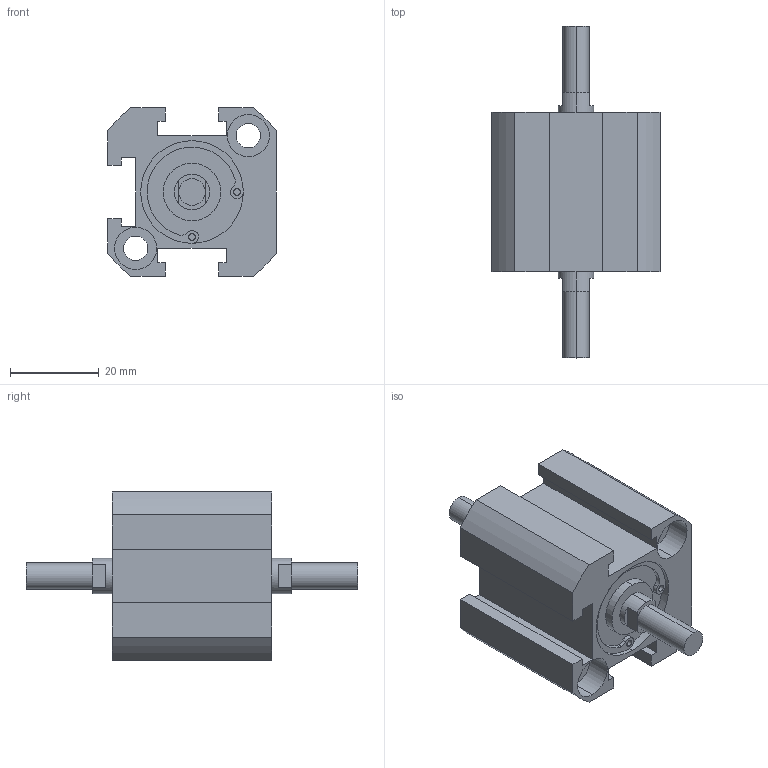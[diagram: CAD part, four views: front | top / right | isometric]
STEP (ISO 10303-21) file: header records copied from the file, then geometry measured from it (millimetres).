
FILE_DESCRIPTION (( 'STEP AP203' ), '1' );
FILE_NAME ('XC#M7-20D-10.STEP', '2016-05-23T08:55:04', ( '' ), ( '' ), 'SwSTEP 2.0', 'SolidWorks 2014', '' );
FILE_SCHEMA (( 'CONFIG_CONTROL_DESIGN' ));
Length unit declared in the file: millimetre
Products named in the file (1): XC#M7-20D-10
Bounding box: 38 x 75 x 38 mm (x, y, z)
Volume: 38088.8 mm3; surface area: 12442.6 mm2
Topology: 1 solids, 1 shells, 120 faces, 302 edges, 196 vertices
Faces by surface type: cylinder 58, plane 58, cone 4
Entity records: 3693 total; most frequent: DIRECTION 670, CARTESIAN_POINT 615, ORIENTED_EDGE 596, EDGE_CURVE 298, AXIS2_PLACEMENT_3D 251, VERTEX_POINT 196, VECTOR 168, LINE 168
